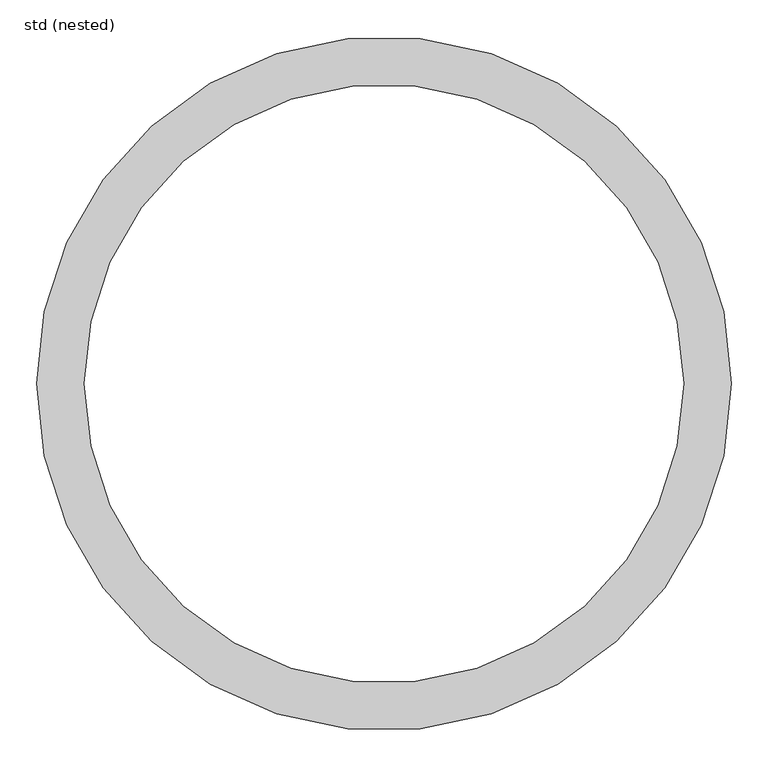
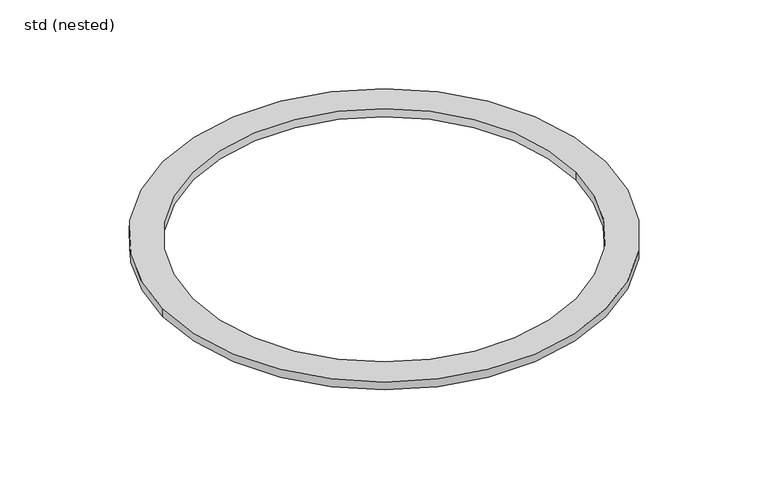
"""IFC4 building model written with IfcOpenShell, lengths in millimetres: unitary equipment geometry, ZZZ_do not use_ME_WPB_flange muliflex_ACO -SH : std (nested)."""

from ifc_helpers import new_model, si_unit, point, frame, origin, origin_2d, place, context, project, spatial, circle_curve, trimmed, segment, composite_curve, outline, extrude, source, transform, mapped, element, save


def std_nested_5e5e7294(model_context):
    return source(origin(), model_context, "Body", "SweptSolid", [
        extrude(outline(composite_curve([segment(trimmed(circle_curve(origin_2d(), 470.5), [point((-470.5, 0.0))], [point((470.5, 0.0))], False, "CARTESIAN"), True, "CONTINUOUS"), segment(trimmed(circle_curve(origin_2d(), 470.5), [point((470.5, 0.0))], [point((-470.5, 0.0))], False, "CARTESIAN"), True, "CONTINUOUS")], self_intersect=False), holes=[composite_curve([segment(trimmed(circle_curve(origin_2d(), 406.0), [point((-406.0, 0.0))], [point((406.0, 0.0))], True, "CARTESIAN"), True, "CONTINUOUS"), segment(trimmed(circle_curve(origin_2d(), 406.0), [point((406.0, 0.0))], [point((-406.0, 0.0))], True, "CARTESIAN"), True, "CONTINUOUS")], self_intersect=False)]), frame((0.0, 0.0, -7.8), z_axis=(0.0, 0.0, 1.0), x_axis=(1.0, 0.0, 0.0)), (0.0, 0.0, 1.0), 17.7),
    ])


if __name__ == "__main__":
    model = new_model("IFC4")
    model_context = context("Model", 3, world=origin())
    ifc_project = project(units=[si_unit("LENGTHUNIT", "METRE", prefix="MILLI")], contexts=[model_context])
    site = spatial("IfcSite", under=ifc_project)
    building = spatial("IfcBuilding", under=site)
    placement = place(None, origin())
    std_nested_shape = std_nested_5e5e7294(model_context)
    element("IfcUnitaryEquipment", 1, ObjectType="ZZZ_do not use_ME_WPB_flange muliflex_ACO -SH : std (nested)", at=placement, inside=building, context=model_context, shape_type="MappedRepresentation", body=[
        mapped(std_nested_shape, transform((0.0, 0.0, 0.0), x_axis=(1.0, 0.0, 0.0), y_axis=(0.0, 1.0, 0.0), z_axis=(0.0, 0.0, 1.0))),
    ])
    save(model, "model.ifc")
